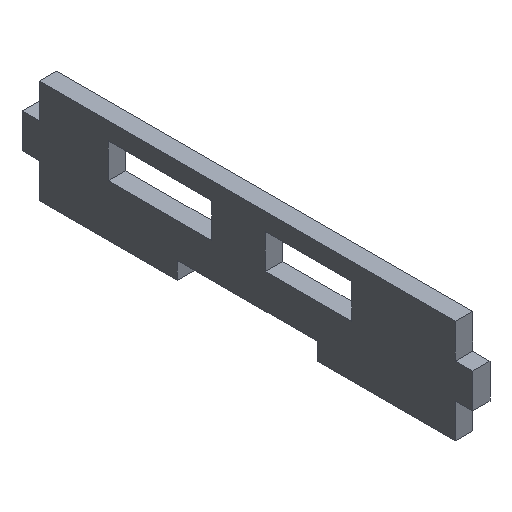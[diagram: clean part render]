
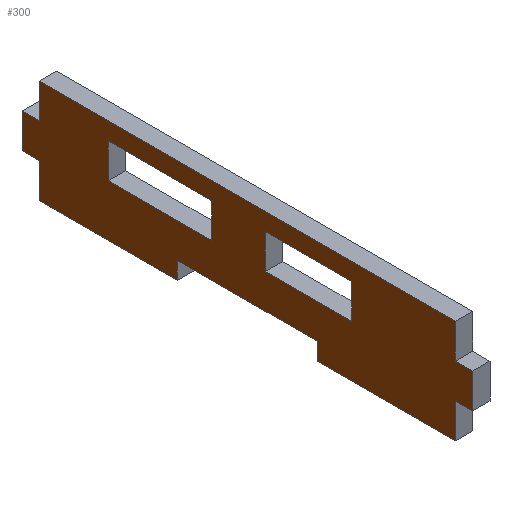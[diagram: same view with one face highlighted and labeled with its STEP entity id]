
A CAD part, isometric view. The second image highlights one B-rep face of the part: STEP entity #300.
In plain terms, the highlighted planar face has unit normal (-1, 0, 0).
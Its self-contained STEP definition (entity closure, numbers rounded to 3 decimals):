
#22 = VERTEX_POINT('',#23);
#23 = CARTESIAN_POINT('',(-37.6,-26.1,4.));
#31 = EDGE_CURVE('',#22,#32,#34,.T.);
#32 = VERTEX_POINT('',#33);
#33 = CARTESIAN_POINT('',(-37.6,-26.1,8.));
#34 = LINE('',#35,#36);
#35 = CARTESIAN_POINT('',(-37.6,-26.1,0.));
#36 = VECTOR('',#37,1.);
#37 = DIRECTION('',(0.,0.,1.));
#71 = VERTEX_POINT('',#72);
#72 = CARTESIAN_POINT('',(-37.6,-24.1,4.));
#78 = EDGE_CURVE('',#22,#71,#79,.T.);
#79 = LINE('',#80,#81);
#80 = CARTESIAN_POINT('',(-37.6,-26.1,4.));
#81 = VECTOR('',#82,1.);
#82 = DIRECTION('',(0.,1.,0.));
#281 = VERTEX_POINT('',#282);
#282 = CARTESIAN_POINT('',(-37.6,-24.1,8.));
#290 = EDGE_CURVE('',#281,#32,#291,.T.);
#291 = LINE('',#292,#293);
#292 = CARTESIAN_POINT('',(-37.6,-24.1,8.));
#293 = VECTOR('',#294,1.);
#294 = DIRECTION('',(0.,-1.,0.));
#300 = ADVANCED_FACE('',(#301,#408,#442),#476,.F.);
#301 = FACE_BOUND('',#302,.F.);
#302 = EDGE_LOOP('',(#303,#313,#321,#329,#337,#345,#353,#359,#360,#361,
    #362,#370,#378,#386,#394,#402));
#303 = ORIENTED_EDGE('',*,*,#304,.T.);
#304 = EDGE_CURVE('',#305,#307,#309,.T.);
#305 = VERTEX_POINT('',#306);
#306 = CARTESIAN_POINT('',(-37.6,24.1,0.));
#307 = VERTEX_POINT('',#308);
#308 = CARTESIAN_POINT('',(-37.6,24.1,4.));
#309 = LINE('',#310,#311);
#310 = CARTESIAN_POINT('',(-37.6,24.1,0.));
#311 = VECTOR('',#312,1.);
#312 = DIRECTION('',(0.,0.,1.));
#313 = ORIENTED_EDGE('',*,*,#314,.T.);
#314 = EDGE_CURVE('',#307,#315,#317,.T.);
#315 = VERTEX_POINT('',#316);
#316 = CARTESIAN_POINT('',(-37.6,26.1,4.));
#317 = LINE('',#318,#319);
#318 = CARTESIAN_POINT('',(-37.6,24.1,4.));
#319 = VECTOR('',#320,1.);
#320 = DIRECTION('',(0.,1.,0.));
#321 = ORIENTED_EDGE('',*,*,#322,.T.);
#322 = EDGE_CURVE('',#315,#323,#325,.T.);
#323 = VERTEX_POINT('',#324);
#324 = CARTESIAN_POINT('',(-37.6,26.1,8.));
#325 = LINE('',#326,#327);
#326 = CARTESIAN_POINT('',(-37.6,26.1,0.));
#327 = VECTOR('',#328,1.);
#328 = DIRECTION('',(0.,0.,1.));
#329 = ORIENTED_EDGE('',*,*,#330,.T.);
#330 = EDGE_CURVE('',#323,#331,#333,.T.);
#331 = VERTEX_POINT('',#332);
#332 = CARTESIAN_POINT('',(-37.6,24.1,8.));
#333 = LINE('',#334,#335);
#334 = CARTESIAN_POINT('',(-37.6,26.1,8.));
#335 = VECTOR('',#336,1.);
#336 = DIRECTION('',(0.,-1.,0.));
#337 = ORIENTED_EDGE('',*,*,#338,.T.);
#338 = EDGE_CURVE('',#331,#339,#341,.T.);
#339 = VERTEX_POINT('',#340);
#340 = CARTESIAN_POINT('',(-37.6,24.1,12.));
#341 = LINE('',#342,#343);
#342 = CARTESIAN_POINT('',(-37.6,24.1,8.));
#343 = VECTOR('',#344,1.);
#344 = DIRECTION('',(0.,0.,1.));
#345 = ORIENTED_EDGE('',*,*,#346,.T.);
#346 = EDGE_CURVE('',#339,#347,#349,.T.);
#347 = VERTEX_POINT('',#348);
#348 = CARTESIAN_POINT('',(-37.6,-24.1,12.));
#349 = LINE('',#350,#351);
#350 = CARTESIAN_POINT('',(-37.6,26.1,12.));
#351 = VECTOR('',#352,1.);
#352 = DIRECTION('',(0.,-1.,0.));
#353 = ORIENTED_EDGE('',*,*,#354,.T.);
#354 = EDGE_CURVE('',#347,#281,#355,.T.);
#355 = LINE('',#356,#357);
#356 = CARTESIAN_POINT('',(-37.6,-24.1,12.));
#357 = VECTOR('',#358,1.);
#358 = DIRECTION('',(0.,0.,-1.));
#359 = ORIENTED_EDGE('',*,*,#290,.T.);
#360 = ORIENTED_EDGE('',*,*,#31,.F.);
#361 = ORIENTED_EDGE('',*,*,#78,.T.);
#362 = ORIENTED_EDGE('',*,*,#363,.T.);
#363 = EDGE_CURVE('',#71,#364,#366,.T.);
#364 = VERTEX_POINT('',#365);
#365 = CARTESIAN_POINT('',(-37.6,-24.1,0.));
#366 = LINE('',#367,#368);
#367 = CARTESIAN_POINT('',(-37.6,-24.1,4.));
#368 = VECTOR('',#369,1.);
#369 = DIRECTION('',(0.,0.,-1.));
#370 = ORIENTED_EDGE('',*,*,#371,.F.);
#371 = EDGE_CURVE('',#372,#364,#374,.T.);
#372 = VERTEX_POINT('',#373);
#373 = CARTESIAN_POINT('',(-37.6,-8.1,0.));
#374 = LINE('',#375,#376);
#375 = CARTESIAN_POINT('',(-37.6,26.1,0.));
#376 = VECTOR('',#377,1.);
#377 = DIRECTION('',(0.,-1.,0.));
#378 = ORIENTED_EDGE('',*,*,#379,.T.);
#379 = EDGE_CURVE('',#372,#380,#382,.T.);
#380 = VERTEX_POINT('',#381);
#381 = CARTESIAN_POINT('',(-37.6,-8.1,2.));
#382 = LINE('',#383,#384);
#383 = CARTESIAN_POINT('',(-37.6,-8.1,0.));
#384 = VECTOR('',#385,1.);
#385 = DIRECTION('',(0.,0.,1.));
#386 = ORIENTED_EDGE('',*,*,#387,.T.);
#387 = EDGE_CURVE('',#380,#388,#390,.T.);
#388 = VERTEX_POINT('',#389);
#389 = CARTESIAN_POINT('',(-37.6,8.1,2.));
#390 = LINE('',#391,#392);
#391 = CARTESIAN_POINT('',(-37.6,-8.1,2.));
#392 = VECTOR('',#393,1.);
#393 = DIRECTION('',(0.,1.,0.));
#394 = ORIENTED_EDGE('',*,*,#395,.T.);
#395 = EDGE_CURVE('',#388,#396,#398,.T.);
#396 = VERTEX_POINT('',#397);
#397 = CARTESIAN_POINT('',(-37.6,8.1,0.));
#398 = LINE('',#399,#400);
#399 = CARTESIAN_POINT('',(-37.6,8.1,2.));
#400 = VECTOR('',#401,1.);
#401 = DIRECTION('',(0.,0.,-1.));
#402 = ORIENTED_EDGE('',*,*,#403,.F.);
#403 = EDGE_CURVE('',#305,#396,#404,.T.);
#404 = LINE('',#405,#406);
#405 = CARTESIAN_POINT('',(-37.6,26.1,0.));
#406 = VECTOR('',#407,1.);
#407 = DIRECTION('',(0.,-1.,0.));
#408 = FACE_BOUND('',#409,.F.);
#409 = EDGE_LOOP('',(#410,#420,#428,#436));
#410 = ORIENTED_EDGE('',*,*,#411,.T.);
#411 = EDGE_CURVE('',#412,#414,#416,.T.);
#412 = VERTEX_POINT('',#413);
#413 = CARTESIAN_POINT('',(-37.6,4.1,10.));
#414 = VERTEX_POINT('',#415);
#415 = CARTESIAN_POINT('',(-37.6,16.1,10.));
#416 = LINE('',#417,#418);
#417 = CARTESIAN_POINT('',(-37.6,4.1,10.));
#418 = VECTOR('',#419,1.);
#419 = DIRECTION('',(0.,1.,0.));
#420 = ORIENTED_EDGE('',*,*,#421,.T.);
#421 = EDGE_CURVE('',#414,#422,#424,.T.);
#422 = VERTEX_POINT('',#423);
#423 = CARTESIAN_POINT('',(-37.6,16.1,6.));
#424 = LINE('',#425,#426);
#425 = CARTESIAN_POINT('',(-37.6,16.1,10.));
#426 = VECTOR('',#427,1.);
#427 = DIRECTION('',(0.,0.,-1.));
#428 = ORIENTED_EDGE('',*,*,#429,.T.);
#429 = EDGE_CURVE('',#422,#430,#432,.T.);
#430 = VERTEX_POINT('',#431);
#431 = CARTESIAN_POINT('',(-37.6,4.1,6.));
#432 = LINE('',#433,#434);
#433 = CARTESIAN_POINT('',(-37.6,16.1,6.));
#434 = VECTOR('',#435,1.);
#435 = DIRECTION('',(0.,-1.,0.));
#436 = ORIENTED_EDGE('',*,*,#437,.T.);
#437 = EDGE_CURVE('',#430,#412,#438,.T.);
#438 = LINE('',#439,#440);
#439 = CARTESIAN_POINT('',(-37.6,4.1,6.));
#440 = VECTOR('',#441,1.);
#441 = DIRECTION('',(0.,0.,1.));
#442 = FACE_BOUND('',#443,.F.);
#443 = EDGE_LOOP('',(#444,#454,#462,#470));
#444 = ORIENTED_EDGE('',*,*,#445,.T.);
#445 = EDGE_CURVE('',#446,#448,#450,.T.);
#446 = VERTEX_POINT('',#447);
#447 = CARTESIAN_POINT('',(-37.6,-12.1,10.));
#448 = VERTEX_POINT('',#449);
#449 = CARTESIAN_POINT('',(-37.6,-2.1,10.));
#450 = LINE('',#451,#452);
#451 = CARTESIAN_POINT('',(-37.6,-12.1,10.));
#452 = VECTOR('',#453,1.);
#453 = DIRECTION('',(0.,1.,0.));
#454 = ORIENTED_EDGE('',*,*,#455,.T.);
#455 = EDGE_CURVE('',#448,#456,#458,.T.);
#456 = VERTEX_POINT('',#457);
#457 = CARTESIAN_POINT('',(-37.6,-2.1,6.));
#458 = LINE('',#459,#460);
#459 = CARTESIAN_POINT('',(-37.6,-2.1,10.));
#460 = VECTOR('',#461,1.);
#461 = DIRECTION('',(0.,0.,-1.));
#462 = ORIENTED_EDGE('',*,*,#463,.T.);
#463 = EDGE_CURVE('',#456,#464,#466,.T.);
#464 = VERTEX_POINT('',#465);
#465 = CARTESIAN_POINT('',(-37.6,-12.1,6.));
#466 = LINE('',#467,#468);
#467 = CARTESIAN_POINT('',(-37.6,-2.1,6.));
#468 = VECTOR('',#469,1.);
#469 = DIRECTION('',(0.,-1.,0.));
#470 = ORIENTED_EDGE('',*,*,#471,.T.);
#471 = EDGE_CURVE('',#464,#446,#472,.T.);
#472 = LINE('',#473,#474);
#473 = CARTESIAN_POINT('',(-37.6,-12.1,6.));
#474 = VECTOR('',#475,1.);
#475 = DIRECTION('',(0.,0.,1.));
#476 = PLANE('',#477);
#477 = AXIS2_PLACEMENT_3D('',#478,#479,#480);
#478 = CARTESIAN_POINT('',(-37.6,26.1,0.));
#479 = DIRECTION('',(1.,0.,0.));
#480 = DIRECTION('',(0.,-1.,0.));
